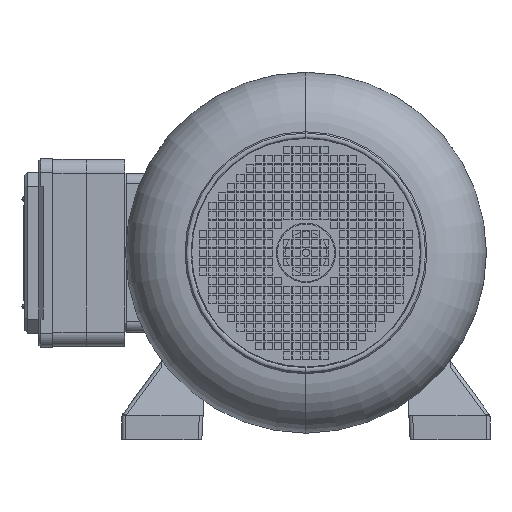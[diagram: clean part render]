
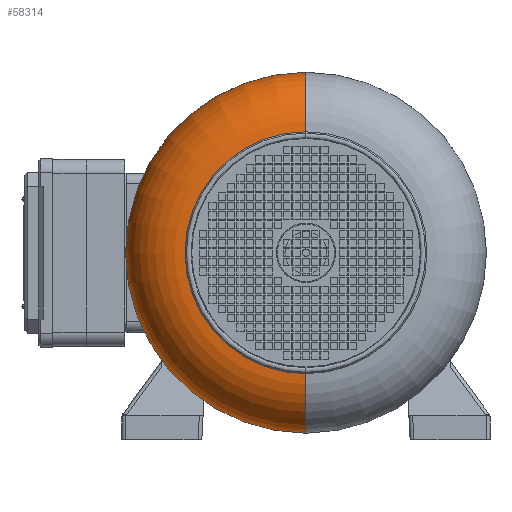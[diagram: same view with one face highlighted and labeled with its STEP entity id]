
A CAD part, left-side view. The second image highlights one B-rep face of the part: STEP entity #58314.
In plain terms, the highlighted toroidal (fillet/blend) face has major radius 128 mm and minor radius 65 mm.
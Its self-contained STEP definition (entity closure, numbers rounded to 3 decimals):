
#1913 = VERTEX_POINT ( 'NONE', #46824 ) ;
#2122 = CIRCLE ( 'NONE', #79560, 129.5 ) ;
#4390 = CARTESIAN_POINT ( 'NONE',  ( 198., 0., -129.5 ) ) ;
#18973 = CARTESIAN_POINT ( 'NONE',  ( 198., 0., 0. ) ) ;
#21939 = VERTEX_POINT ( 'NONE', #40816 ) ;
#23303 = DIRECTION ( 'NONE',  ( 0., -1., 0. ) ) ;
#32075 = DIRECTION ( 'NONE',  ( 0., 0., 1. ) ) ;
#40816 = CARTESIAN_POINT ( 'NONE',  ( 133.017, 0., -193. ) ) ;
#41911 = CARTESIAN_POINT ( 'NONE',  ( 133.017, 0., 0. ) ) ;
#44220 = EDGE_CURVE ( 'NONE', #1913, #152533, #85084, .T. ) ;
#45139 = CIRCLE ( 'NONE', #117651, 65. ) ;
#46824 = CARTESIAN_POINT ( 'NONE',  ( 198., 0., 129.5 ) ) ;
#54993 = DIRECTION ( 'NONE',  ( 0., 0., 1. ) ) ;
#58314 = ADVANCED_FACE ( 'NONE', ( #124996 ), #155470, .T. ) ;
#60486 = CARTESIAN_POINT ( 'NONE',  ( 133.017, 0., -128. ) ) ;
#73567 = DIRECTION ( 'NONE',  ( 0., 0., 1. ) ) ;
#74988 = CARTESIAN_POINT ( 'NONE',  ( 133.017, 0., 0. ) ) ;
#79560 = AXIS2_PLACEMENT_3D ( 'NONE', #18973, #110017, #32075 ) ;
#85084 = CIRCLE ( 'NONE', #86637, 65. ) ;
#85890 = ORIENTED_EDGE ( 'NONE', *, *, #44220, .T. ) ;
#86637 = AXIS2_PLACEMENT_3D ( 'NONE', #101291, #23303, #114310 ) ;
#88136 = DIRECTION ( 'NONE',  ( 0., 0., 1. ) ) ;
#89018 = ORIENTED_EDGE ( 'NONE', *, *, #121669, .T. ) ;
#97608 = AXIS2_PLACEMENT_3D ( 'NONE', #74988, #165952, #88136 ) ;
#101291 = CARTESIAN_POINT ( 'NONE',  ( 133.017, 0., 128. ) ) ;
#110017 = DIRECTION ( 'NONE',  ( -1., 0., 0. ) ) ;
#110776 = EDGE_CURVE ( 'NONE', #130026, #21939, #45139, .T. ) ;
#114310 = DIRECTION ( 'NONE',  ( 0., 0., -1. ) ) ;
#115106 = AXIS2_PLACEMENT_3D ( 'NONE', #41911, #130612, #54993 ) ;
#115325 = EDGE_CURVE ( 'NONE', #21939, #152533, #161807, .T. ) ;
#117651 = AXIS2_PLACEMENT_3D ( 'NONE', #60486, #151408, #73567 ) ;
#121669 = EDGE_CURVE ( 'NONE', #130026, #1913, #2122, .T. ) ;
#124996 = FACE_OUTER_BOUND ( 'NONE', #158291, .T. ) ;
#130026 = VERTEX_POINT ( 'NONE', #4390 ) ;
#130612 = DIRECTION ( 'NONE',  ( -1., 0., 0. ) ) ;
#134538 = ORIENTED_EDGE ( 'NONE', *, *, #115325, .F. ) ;
#140056 = ORIENTED_EDGE ( 'NONE', *, *, #110776, .F. ) ;
#144325 = CARTESIAN_POINT ( 'NONE',  ( 133.017, 0., 193. ) ) ;
#151408 = DIRECTION ( 'NONE',  ( 0., 1., 0. ) ) ;
#152533 = VERTEX_POINT ( 'NONE', #144325 ) ;
#155470 = TOROIDAL_SURFACE ( 'NONE', #115106, 128., 65. ) ;
#158291 = EDGE_LOOP ( 'NONE', ( #140056, #89018, #85890, #134538 ) ) ;
#161807 = CIRCLE ( 'NONE', #97608, 193. ) ;
#165952 = DIRECTION ( 'NONE',  ( -1., 0., 0. ) ) ;
